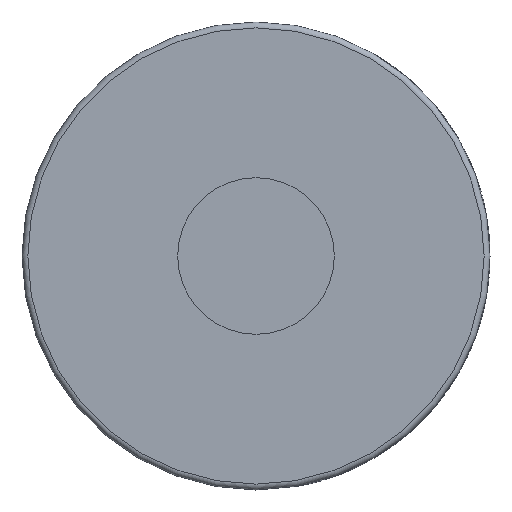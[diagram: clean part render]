
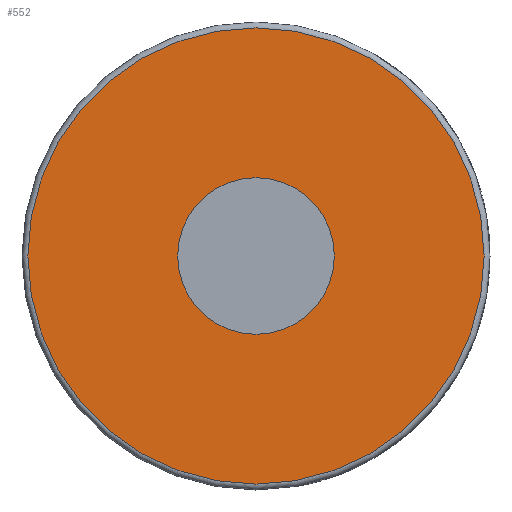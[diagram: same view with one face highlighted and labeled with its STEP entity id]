
A CAD part, left-side view. The second image highlights one B-rep face of the part: STEP entity #552.
In plain terms, the highlighted planar face has unit normal (-1, 0, 0).
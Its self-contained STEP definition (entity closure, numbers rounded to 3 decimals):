
#552 = ADVANCED_FACE( '', ( #1177, #1178 ), #1179, .F. );
#1177 = FACE_BOUND( '', #2904, .T. );
#1178 = FACE_OUTER_BOUND( '', #2905, .T. );
#1179 = PLANE( '', #2906 );
#2904 = EDGE_LOOP( '', ( #4515 ) );
#2905 = EDGE_LOOP( '', ( #4516 ) );
#2906 = AXIS2_PLACEMENT_3D( '', #4517, #4518, #4519 );
#4515 = ORIENTED_EDGE( '', *, *, #5071, .F. );
#4516 = ORIENTED_EDGE( '', *, *, #5417, .T. );
#4517 = CARTESIAN_POINT( '', ( 7.335, 0., 17.025 ) );
#4518 = DIRECTION( '', ( 1., 0., 0. ) );
#4519 = DIRECTION( '', ( 0., 0., -1. ) );
#5071 = EDGE_CURVE( '', #5940, #5940, #5941, .T. );
#5417 = EDGE_CURVE( '', #6448, #6448, #6449, .T. );
#5940 = VERTEX_POINT( '', #7493 );
#5941 = CIRCLE( '', #7494, 4.42 );
#6448 = VERTEX_POINT( '', #8933 );
#6449 = CIRCLE( '', #8934, 17.025 );
#7493 = CARTESIAN_POINT( '', ( 7.335, 0., 4.42 ) );
#7494 = AXIS2_PLACEMENT_3D( '', #9174, #9175, #9176 );
#8933 = CARTESIAN_POINT( '', ( 7.335, 0., 17.025 ) );
#8934 = AXIS2_PLACEMENT_3D( '', #9207, #9208, #9209 );
#9174 = CARTESIAN_POINT( '', ( 7.335, 0., 0. ) );
#9175 = DIRECTION( '', ( -1., 0., 0. ) );
#9176 = DIRECTION( '', ( 0., 0., 1. ) );
#9207 = CARTESIAN_POINT( '', ( 7.335, 0., 0. ) );
#9208 = DIRECTION( '', ( -1., 0., 0. ) );
#9209 = DIRECTION( '', ( 0., 0., 1. ) );
